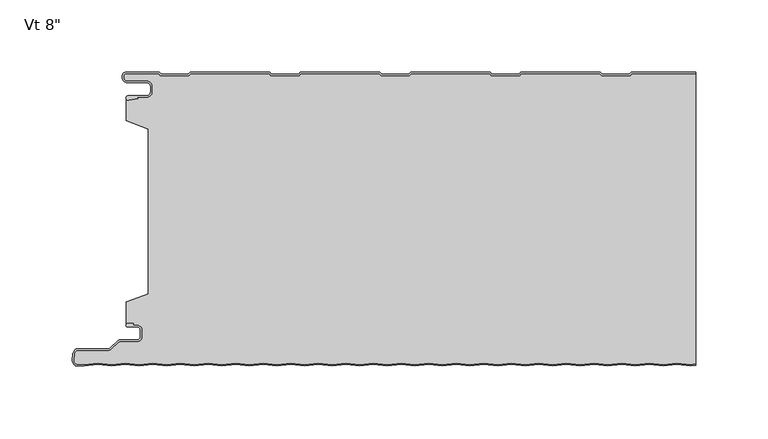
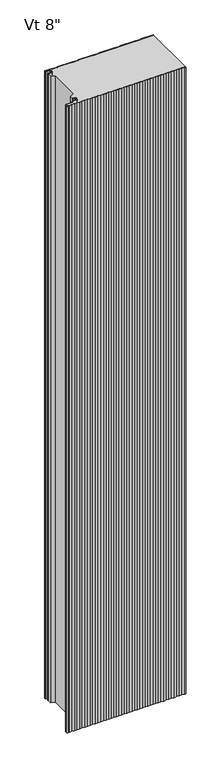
"""IFC4 building model written with IfcOpenShell, lengths in millimetres: plate geometry."""

from ifc_helpers import new_model, si_unit, point, frame, frame_2d, origin, origin_with_axes, place, context, project, spatial, polyline, circle_curve, trimmed, segment, composite_curve, outline, extrude, source, transform, mapped, element, save
from ifc_brep_helpers import plane_surface, cylinder_surface, revolved_surface, advanced_brep


def plate_b822c634(model_context):
    return source(origin(), model_context, "Body", "SolidModel", [
        extrude(outline(composite_curve([segment(polyline([(-196.9639401, -1.03e-05), (-173.8991777, -1.03e-05), (-172.6989573, -1.2002307), (-153.8919247, -1.2002307), (-152.6916939, 0.0), (-97.6993404, 0.0), (-96.4991097, -1.2002307), (-77.6920771, -1.2002307), (-76.4918463, 0.0), (-21.5159312, 0.0), (-20.3157004, -1.2002307), (-1.5086678, -1.2002307), (-0.3084371, 0.0), (54.667478, 0.0), (55.8677088, -1.2002307), (74.6747414, -1.2002307), (75.8749721, 0.0), (130.8673256, 0.0), (132.0675564, -1.2002307), (150.874589, -1.2002307), (152.0748197, 0.0), (196.6137654, 0.0), (196.6137654, -1.0), (152.4890333, -1.0), (151.2888025, -2.2002307), (131.6533428, -2.2002307), (130.4531121, -1.0), (76.2891857, -1.0), (75.0889549, -2.2002307), (55.4534952, -2.2002307), (54.2532645, -1.0), (0.1057765, -1.0), (-1.0944543, -2.2002307), (-20.729914, -2.2002307), (-21.9301447, -1.0), (-76.0776328, -1.0), (-77.2778635, -2.2002307), (-96.9133232, -2.2002307), (-98.113554, -1.0), (-152.2774804, -1.0), (-153.4777111, -2.2002307), (-173.1131708, -2.2002307), (-174.3133912, -1.0000103), (-196.9839768, -1.0000103)]), True, "CONTINUOUS"), segment(trimmed(circle_curve(frame_2d((-197.0487242, -2.3984828)), 1.3999705), [point((-196.9839768, -1.0000103))], [point((-198.4486947, -2.3984828))], True, "CARTESIAN"), True, "CONTINUOUS"), segment(polyline([(-198.4486947, -2.3984828), (-198.4486947, -3.9515996)]), True, "CONTINUOUS"), segment(trimmed(circle_curve(frame_2d((-196.2386394, -3.9515996)), 2.2100553), [point((-198.4486947, -3.9515996))], [point((-196.2386394, -6.1616549))], True, "CARTESIAN"), True, "CONTINUOUS"), segment(polyline([(-196.2386394, -6.1616549), (-182.7094114, -6.1616549)]), True, "CONTINUOUS"), segment(trimmed(circle_curve(frame_2d((-182.7094114, -9.881641)), 3.7199861), [point((-182.7094114, -6.1616549))], [point((-178.9894252, -9.881641))], False, "CARTESIAN"), True, "CONTINUOUS"), segment(polyline([(-178.9894252, -9.881641), (-178.9894252, -13.5282389)]), True, "CONTINUOUS"), segment(trimmed(circle_curve(frame_2d((-182.7094216, -13.5282389)), 3.7199964), [point((-178.9894252, -13.5282389))], [point((-182.7094216, -17.2482353))], False, "CARTESIAN"), True, "CONTINUOUS"), segment(polyline([(-182.7094216, -17.2482353), (-189.0545396, -17.2482353), (-188.8919338, -18.1704184), (-195.1454629, -19.2730843)]), True, "CONTINUOUS"), segment(trimmed(circle_curve(frame_2d((-195.4101029, -17.7722363)), 1.524001), [point((-195.1454629, -19.2730843))], [point((-195.4101029, -16.2482353))], False, "CARTESIAN"), True, "CONTINUOUS"), segment(polyline([(-195.4101029, -16.2482353), (-182.7094216, -16.2482353)]), True, "CONTINUOUS"), segment(trimmed(circle_curve(frame_2d((-182.7094216, -13.5282389)), 2.7199964), [point((-182.7094216, -16.2482353))], [point((-179.9894252, -13.5282389))], True, "CARTESIAN"), True, "CONTINUOUS"), segment(polyline([(-179.9894252, -13.5282389), (-179.9894252, -9.881641)]), True, "CONTINUOUS"), segment(trimmed(circle_curve(frame_2d((-182.7094114, -9.881641)), 2.7199861), [point((-179.9894252, -9.881641))], [point((-182.7094114, -7.1616549))], True, "CARTESIAN"), True, "CONTINUOUS"), segment(polyline([(-182.7094114, -7.1616549), (-196.2386394, -7.1616549)]), True, "CONTINUOUS"), segment(trimmed(circle_curve(frame_2d((-196.2386394, -3.9515996)), 3.2100553), [point((-196.2386394, -7.1616549))], [point((-199.4486948, -3.9515996))], False, "CARTESIAN"), True, "CONTINUOUS"), segment(polyline([(-199.4486948, -3.9515996), (-199.4486947, -2.3984828)]), True, "CONTINUOUS"), segment(trimmed(circle_curve(frame_2d((-197.0487242, -2.3984828)), 2.3999705), [point((-199.4486947, -2.3984828))], [point((-196.9639401, -1.03e-05))], False, "CARTESIAN"), True, "CONTINUOUS")], self_intersect=False)), origin_with_axes(), (0.0, 0.0, 1.0), 2400.0),
        extrude(outline(composite_curve([segment(polyline([(-195.7329864, -173.6783009), (-191.9745857, -173.6783009), (-191.9745857, -175.0767845), (-189.2754693, -175.0767845)]), True, "CONTINUOUS"), segment(trimmed(circle_curve(frame_2d((-189.2754693, -178.4267844)), 3.3499999), [point((-189.2754693, -175.0767845))], [point((-185.9254694, -178.4267844))], False, "CARTESIAN"), True, "CONTINUOUS"), segment(polyline([(-185.9254694, -178.4267844), (-185.9254694, -182.8267842)]), True, "CONTINUOUS"), segment(trimmed(circle_curve(frame_2d((-189.2754693, -182.8267842)), 3.3499999), [point((-185.9254694, -182.8267842))], [point((-189.2754693, -186.1767841))], False, "CARTESIAN"), True, "CONTINUOUS"), segment(polyline([(-189.2754693, -186.1767841), (-201.0863815, -186.1767841)]), True, "CONTINUOUS"), segment(trimmed(circle_curve(frame_2d((-201.0863815, -187.8767841)), 1.7), [point((-201.0863815, -186.1767841))], [point((-202.288463, -186.6747026))], True, "CARTESIAN"), True, "CONTINUOUS"), segment(polyline([(-202.288463, -186.6747026), (-207.029022, -191.4152615)]), True, "CONTINUOUS"), segment(trimmed(circle_curve(frame_2d((-208.8674996, -189.5767839)), 2.6), [point((-207.029022, -191.4152615))], [point((-208.8674996, -192.1767839))], False, "CARTESIAN"), True, "CONTINUOUS"), segment(polyline([(-208.8674996, -192.1767839), (-229.8742569, -192.1767839)]), True, "CONTINUOUS"), segment(trimmed(circle_curve(frame_2d((-229.8742569, -194.8767839)), 2.7), [point((-229.8742569, -192.1767839))], [point((-232.563964, -194.6412511))], True, "CARTESIAN"), True, "CONTINUOUS"), segment(polyline([(-232.563964, -194.6412511), (-232.9796492, -199.3882397)]), True, "CONTINUOUS"), segment(trimmed(circle_curve(frame_2d((-230.4287597, -199.6116164)), 2.5606512), [point((-232.9796492, -199.3882397))], [point((-230.4287597, -202.1722676))], True, "CARTESIAN"), True, "CONTINUOUS"), segment(polyline([(-230.4287597, -202.1722676), (-225.7790982, -202.1722676), (-216.4481844, -201.1350254), (-206.9232034, -202.1938405), (-197.3982225, -201.1350254), (-187.8732415, -202.1938405), (-178.3482606, -201.1350254), (-168.8232796, -202.1938405), (-159.2982987, -201.1350254), (-149.7733177, -202.1938405), (-140.2483368, -201.1350254), (-130.7233558, -202.1938405), (-121.1983749, -201.1350254), (-111.6733939, -202.1938405), (-102.148413, -201.1350254), (-92.623432, -202.1938405), (-83.0984511, -201.1350254), (-73.5734701, -202.1938405), (-64.0484892, -201.1350254), (-54.5235082, -202.1938405), (-44.9985273, -201.1350254), (-35.4735463, -202.1938405), (-25.9485654, -201.1350254), (-16.4235844, -202.1938405), (-6.8986035, -201.1350254), (2.6263775, -202.1938405), (12.1513584, -201.1350254), (21.6763394, -202.1938405), (31.2013203, -201.1350254), (40.7263013, -202.1938405), (50.2512822, -201.1350254), (59.7762632, -202.1938405), (69.3012441, -201.1350254), (78.8262251, -202.1938405), (88.351206, -201.1350254), (97.876187, -202.1938405), (107.4011679, -201.1350254), (116.9261489, -202.1938405), (126.4511298, -201.1350254), (135.9761108, -202.1938405), (145.5010917, -201.1350254), (155.0260727, -202.1938405), (164.5510536, -201.1350254), (174.0760346, -202.1938405), (183.6010155, -201.1350254), (193.1259965, -202.1938405), (196.6137654, -201.8061334), (196.6137654, -202.8122929), (193.1259965, -203.2), (183.6010155, -202.1411849), (174.0760346, -203.2), (164.5510536, -202.1411849), (155.0260727, -203.2), (145.5010917, -202.1411849), (135.9761108, -203.2), (126.4511298, -202.1411849), (116.9261489, -203.2), (107.4011679, -202.1411849), (97.876187, -203.2), (88.351206, -202.1411849), (78.8262251, -203.2), (69.3012441, -202.1411849), (59.7762632, -203.2), (50.2512822, -202.1411849), (40.7263013, -203.2), (31.2013203, -202.1411849), (21.6763394, -203.2), (12.1513584, -202.1411849), (2.6263775, -203.2), (-6.8986035, -202.1411849), (-16.4235844, -203.2), (-25.9485654, -202.1411849), (-35.4735463, -203.2), (-44.9985273, -202.1411849), (-54.5235082, -203.2), (-64.0484892, -202.1411849), (-73.5734701, -203.2), (-83.0984511, -202.1411849), (-92.623432, -203.2), (-102.148413, -202.1411849), (-111.6733939, -203.2), (-121.1983749, -202.1411849), (-130.7233558, -203.2), (-140.2483368, -202.1411849), (-149.7733177, -203.2), (-159.2982987, -202.1411849), (-168.8232796, -203.2), (-178.3482606, -202.1411849), (-187.8732415, -203.2), (-197.3982225, -202.1411849), (-206.9232034, -203.2), (-216.4481844, -202.1411849), (-225.7236879, -203.1722676), (-230.4287597, -203.1722676)]), True, "CONTINUOUS"), segment(trimmed(circle_curve(frame_2d((-230.4287597, -199.6116164)), 3.5606512), [point((-230.4287597, -203.1722676))], [point((-233.975837, -199.3010053))], False, "CARTESIAN"), True, "CONTINUOUS"), segment(polyline([(-233.975837, -199.3010053), (-233.5601518, -194.5540168)]), True, "CONTINUOUS"), segment(trimmed(circle_curve(frame_2d((-229.8742569, -194.8767839)), 3.7), [point((-233.5601518, -194.5540168))], [point((-229.8742569, -191.1767839))], False, "CARTESIAN"), True, "CONTINUOUS"), segment(polyline([(-229.8742569, -191.1767839), (-208.8674996, -191.1767839)]), True, "CONTINUOUS"), segment(trimmed(circle_curve(frame_2d((-208.8674996, -189.5767839)), 1.6), [point((-208.8674996, -191.1767839))], [point((-207.7361288, -190.7081547))], True, "CARTESIAN"), True, "CONTINUOUS"), segment(polyline([(-207.7361288, -190.7081547), (-202.9955698, -185.9675958)]), True, "CONTINUOUS"), segment(trimmed(circle_curve(frame_2d((-201.0863815, -187.8767841)), 2.7), [point((-202.9955698, -185.9675958))], [point((-201.0863815, -185.1767841))], False, "CARTESIAN"), True, "CONTINUOUS"), segment(polyline([(-201.0863815, -185.1767841), (-189.2754693, -185.1767841)]), True, "CONTINUOUS"), segment(trimmed(circle_curve(frame_2d((-189.2754693, -182.8267842)), 2.3499999), [point((-189.2754693, -185.1767841))], [point((-186.9254694, -182.8267842))], True, "CARTESIAN"), True, "CONTINUOUS"), segment(polyline([(-186.9254694, -182.8267842), (-186.9254694, -178.4267844)]), True, "CONTINUOUS"), segment(trimmed(circle_curve(frame_2d((-189.2754693, -178.4267844)), 2.3499999), [point((-186.9254694, -178.4267844))], [point((-189.2754693, -176.0767845))], True, "CARTESIAN"), True, "CONTINUOUS"), segment(polyline([(-189.2754693, -176.0767845), (-195.7947883, -176.0767845)]), True, "CONTINUOUS"), segment(trimmed(circle_curve(frame_2d((-195.734501, -174.8782999)), 1.2), [point((-195.7947883, -176.0767845))], [point((-195.7329864, -173.6783009))], False, "CARTESIAN"), True, "CONTINUOUS")], self_intersect=False)), origin_with_axes(), (0.0, 0.0, 1.0), 2400.0),
        advanced_brep(
        [(-189.2754693, -175.082944, 2400.0), (-185.9254694, -178.4329439, 2400.0), (-185.9254694, -182.8329437, 2400.0), (-189.2754693, -186.1829436, 2400.0), (-201.0863815, -186.1829436, 2400.0), (-202.288463, -186.6808621, 2400.0), (-207.029022, -191.421421, 2400.0), (-208.8674996, -192.1829434, 2400.0), (-229.8742569, -192.1829434, 2400.0), (-232.563964, -194.6474106, 2400.0), (-232.9796492, -199.3943992, 2400.0), (-230.4287597, -202.1784271, 2400.0), (-225.77874, -202.1784271, 2400.0), (-216.4478261, -201.1411849, 2400.0), (-206.9228452, -202.2, 2400.0), (-197.3978642, -201.1411849, 2400.0), (-187.8728833, -202.2, 2400.0), (-178.3479023, -201.1411849, 2400.0), (-168.8229214, -202.2, 2400.0), (-159.2979404, -201.1411849, 2400.0), (-149.7729595, -202.2, 2400.0), (-140.2479785, -201.1411849, 2400.0), (-130.7229976, -202.2, 2400.0), (-121.1980166, -201.1411849, 2400.0), (-111.6730357, -202.2, 2400.0), (-102.1480547, -201.1411849, 2400.0), (-92.6230738, -202.2, 2400.0), (-83.0980928, -201.1411849, 2400.0), (-73.5731119, -202.2, 2400.0), (-64.0481309, -201.1411849, 2400.0), (-54.52315, -202.2, 2400.0), (-44.998169, -201.1411849, 2400.0), (-35.4731881, -202.2, 2400.0), (-25.9482071, -201.1411849, 2400.0), (-16.4232262, -202.2, 2400.0), (-6.8982452, -201.1411849, 2400.0), (2.6267357, -202.2, 2400.0), (12.1517167, -201.1411849, 2400.0), (21.6766976, -202.2, 2400.0), (31.2016786, -201.1411849, 2400.0), (40.7266595, -202.2, 2400.0), (50.2516405, -201.1411849, 2400.0), (59.7766214, -202.2, 2400.0), (69.3016024, -201.1411849, 2400.0), (78.8265833, -202.2, 2400.0), (88.3515643, -201.1411849, 2400.0), (97.8765452, -202.2, 2400.0), (107.4015262, -201.1411849, 2400.0), (116.9265071, -202.2, 2400.0), (126.4514881, -201.1411849, 2400.0), (135.976469, -202.2, 2400.0), (145.50145, -201.1411849, 2400.0), (155.0264309, -202.2, 2400.0), (164.5514119, -201.1411849, 2400.0), (174.0763928, -202.2, 2400.0), (183.6013738, -201.1411849, 2400.0), (193.1263547, -202.2, 2400.0), (196.6137654, -201.8123328, 2400.0), (196.6137654, -1.0, 2400.0), (152.4890333, -1.0, 2400.0), (151.2888025, -2.2002307, 2400.0), (131.6533428, -2.2002307, 2400.0), (130.4531121, -1.0, 2400.0), (76.2891857, -1.0, 2400.0), (75.0889549, -2.2002307, 2400.0), (55.4534952, -2.2002307, 2400.0), (54.2532645, -1.0, 2400.0), (0.1057765, -1.0, 2400.0), (-1.0944543, -2.2002307, 2400.0), (-20.729914, -2.2002307, 2400.0), (-21.9301447, -1.0, 2400.0), (-76.0776328, -1.0, 2400.0), (-77.2778635, -2.2002307, 2400.0), (-96.9133232, -2.2002307, 2400.0), (-98.113554, -1.0, 2400.0), (-152.2774804, -1.0, 2400.0), (-153.4777111, -2.2002307, 2400.0), (-173.1131708, -2.2002307, 2400.0), (-174.3133912, -1.0000103, 2400.0), (-196.9839768, -1.0000103, 2400.0), (-198.4486947, -2.3984828, 2400.0), (-198.4486947, -3.9515996, 2400.0), (-196.2386394, -6.1616549, 2400.0), (-182.7094114, -6.1616549, 2400.0), (-178.9894252, -9.881641, 2400.0), (-178.9894252, -13.5282389, 2400.0), (-182.7094216, -17.2482353, 2400.0), (-189.0545396, -17.2482353, 2400.0), (-188.8919338, -18.1704184, 2400.0), (-195.1454629, -19.2730843, 2400.0), (-196.5999998, -18.7244571, 2400.0), (-196.5999998, -33.5050578, 2400.0), (-181.6020466, -39.1301019, 2400.0), (-181.588281, -153.3686066, 2400.0), (-196.5999998, -158.9712613, 2400.0), (-196.5999998, -174.0532484, 2400.0), (-195.7329864, -173.6844604, 2400.0), (-191.9745857, -173.6844604, 2400.0), (-191.9745857, -175.082944, 2400.0), (-189.2754693, -175.082944, 0.0), (-191.9745857, -175.082944, 0.0), (-191.9745857, -173.6844604, 0.0), (-195.7329864, -173.6844604, 0.0), (-196.5999998, -174.0532484, 0.0), (-196.5999998, -158.9712613, 0.0), (-181.6020466, -153.3470337, 0.0), (-181.588281, -39.1301019, 0.0), (-196.5999998, -33.5050578, 0.0), (-196.5999998, -18.7244571, 0.0), (-195.1454629, -19.2730843, 0.0), (-188.8919338, -18.1704184, 0.0), (-189.0545396, -17.2482353, 0.0), (-182.7094216, -17.2482353, 0.0), (-178.9894252, -13.5282389, 0.0), (-178.9894252, -9.881641, 0.0), (-182.7094114, -6.1616549, 0.0), (-196.2386394, -6.1616549, 0.0), (-198.4486948, -3.9515996, 0.0), (-198.4486947, -2.3984828, 0.0), (-196.9839768, -1.0000103, 0.0), (-174.3133912, -1.0000103, 0.0), (-173.1131708, -2.2002307, 0.0), (-153.4777111, -2.2002307, 0.0), (-152.2774804, -1.0, 0.0), (-98.113554, -1.0, 0.0), (-96.9133232, -2.2002307, 0.0), (-77.2778635, -2.2002307, 0.0), (-76.0776328, -1.0, 0.0), (-21.9301447, -1.0, 0.0), (-20.729914, -2.2002307, 0.0), (-1.0944543, -2.2002307, 0.0), (0.1057765, -1.0, 0.0), (54.2532645, -1.0, 0.0), (55.4534952, -2.2002307, 0.0), (75.0889549, -2.2002307, 0.0), (76.2891857, -1.0, 0.0), (130.4531121, -1.0, 0.0), (131.6533428, -2.2002307, 0.0), (151.2888025, -2.2002307, 0.0), (152.4890333, -1.0, 0.0), (196.6137654, -1.0, 0.0), (196.6137654, -201.8123328, 0.0), (193.1263547, -202.2, 0.0), (183.6013738, -201.1411849, 0.0), (174.0763928, -202.2, 0.0), (164.5514119, -201.1411849, 0.0), (155.0264309, -202.2, 0.0), (145.50145, -201.1411849, 0.0), (135.976469, -202.2, 0.0), (126.4514881, -201.1411849, 0.0), (116.9265071, -202.2, 0.0), (107.4015262, -201.1411849, 0.0), (97.8765452, -202.2, 0.0), (88.3515643, -201.1411849, 0.0), (78.8265833, -202.2, 0.0), (69.3016024, -201.1411849, 0.0), (59.7766214, -202.2, 0.0), (50.2516405, -201.1411849, 0.0), (40.7266595, -202.2, 0.0), (31.2016786, -201.1411849, 0.0), (21.6766976, -202.2, 0.0), (12.1517167, -201.1411849, 0.0), (2.6267357, -202.2, 0.0), (-6.8982452, -201.1411849, 0.0), (-16.4232262, -202.2, 0.0), (-25.9482071, -201.1411849, 0.0), (-35.4731881, -202.2, 0.0), (-44.998169, -201.1411849, 0.0), (-54.52315, -202.2, 0.0), (-64.0481309, -201.1411849, 0.0), (-73.5731119, -202.2, 0.0), (-83.0980928, -201.1411849, 0.0), (-92.6230738, -202.2, 0.0), (-102.1480547, -201.1411849, 0.0), (-111.6730357, -202.2, 0.0), (-121.1980166, -201.1411849, 0.0), (-130.7229976, -202.2, 0.0), (-140.2479785, -201.1411849, 0.0), (-149.7729595, -202.2, 0.0), (-159.2979404, -201.1411849, 0.0), (-168.8229214, -202.2, 0.0), (-178.3479023, -201.1411849, 0.0), (-187.8728833, -202.2, 0.0), (-197.3978642, -201.1411849, 0.0), (-206.9228452, -202.2, 0.0), (-216.4478261, -201.1411849, 0.0), (-225.77874, -202.1784271, 0.0), (-230.4287597, -202.1784271, 0.0), (-232.9796492, -199.3943992, 0.0), (-232.563964, -194.6474106, 0.0), (-229.8742569, -192.1829434, 0.0), (-208.8674996, -192.1829434, 0.0), (-207.029022, -191.421421, 0.0), (-202.288463, -186.6808621, 0.0), (-201.0863815, -186.1829436, 0.0), (-189.2754693, -186.1829436, 0.0), (-185.9254694, -182.8329437, 0.0), (-185.9254694, -178.4329439, 0.0)],
        [
            (0, 1, circle_curve(frame((-189.2754693, -178.4329439, 2400.0), z_axis=(0.0, 0.0, -1.0), x_axis=(-1.0, 0.0, 0.0)), 3.3499999)),
            (1, 2),
            (2, 3, circle_curve(frame((-189.2754693, -182.8329437, 2400.0), z_axis=(0.0, 0.0, -1.0), x_axis=(-1.0, 0.0, 0.0)), 3.3499999)),
            (3, 4),
            (4, 5, circle_curve(frame((-201.0863815, -187.8829436, 2400.0), z_axis=(0.0, 0.0, 1.0), x_axis=(-1.0, 0.0, 0.0)), 1.7)),
            (5, 6),
            (6, 7, circle_curve(frame((-208.8674996, -189.5829434, 2400.0), z_axis=(0.0, 0.0, -1.0), x_axis=(-1.0, 0.0, 0.0)), 2.6)),
            (7, 8),
            (8, 9, circle_curve(frame((-229.8742569, -194.8829434, 2400.0), z_axis=(0.0, 0.0, 1.0), x_axis=(-1.0, 0.0, 0.0)), 2.7)),
            (9, 10),
            (10, 11, circle_curve(frame((-230.4287597, -199.617776, 2400.0), z_axis=(0.0, 0.0, 1.0), x_axis=(-1.0, 0.0, 0.0)), 2.5606512)),
            (11, 12),
            (12, 13),
            (13, 14),
            (14, 15),
            (15, 16),
            (16, 17),
            (17, 18),
            (18, 19),
            (19, 20),
            (20, 21),
            (21, 22),
            (22, 23),
            (23, 24),
            (24, 25),
            (25, 26),
            (26, 27),
            (27, 28),
            (28, 29),
            (29, 30),
            (30, 31),
            (31, 32),
            (32, 33),
            (33, 34),
            (34, 35),
            (35, 36),
            (36, 37),
            (37, 38),
            (38, 39),
            (39, 40),
            (40, 41),
            (41, 42),
            (42, 43),
            (43, 44),
            (44, 45),
            (45, 46),
            (46, 47),
            (47, 48),
            (48, 49),
            (49, 50),
            (50, 51),
            (51, 52),
            (52, 53),
            (53, 54),
            (54, 55),
            (55, 56),
            (56, 57),
            (57, 58),
            (58, 59),
            (59, 60),
            (60, 61),
            (61, 62),
            (62, 63),
            (63, 64),
            (64, 65),
            (65, 66),
            (66, 67),
            (67, 68),
            (68, 69),
            (69, 70),
            (70, 71),
            (71, 72),
            (72, 73),
            (73, 74),
            (74, 75),
            (75, 76),
            (76, 77),
            (77, 78),
            (78, 79),
            (79, 80, circle_curve(frame((-197.0487242, -2.3984828, 2400.0), z_axis=(0.0, 0.0, 1.0), x_axis=(-1.0, 0.0, 0.0)), 1.3999705)),
            (80, 81),
            (81, 82, circle_curve(frame((-196.2386394, -3.9515996, 2400.0), z_axis=(0.0, 0.0, 1.0), x_axis=(-1.0, 0.0, 0.0)), 2.2100553)),
            (82, 83),
            (83, 84, circle_curve(frame((-182.7094114, -9.881641, 2400.0), z_axis=(0.0, 0.0, -1.0), x_axis=(-1.0, 0.0, 0.0)), 3.7199861)),
            (84, 85),
            (85, 86, circle_curve(frame((-182.7094216, -13.5282389, 2400.0), z_axis=(0.0, 0.0, -1.0), x_axis=(-1.0, 0.0, 0.0)), 3.7199964)),
            (86, 87),
            (87, 88),
            (88, 89),
            (89, 90, circle_curve(frame((-195.4101029, -17.7722363, 2400.0), z_axis=(0.0, 0.0, -1.0), x_axis=(-1.0, 0.0, 0.0)), 1.524001)),
            (90, 91),
            (91, 92),
            (92, 93),
            (93, 94),
            (94, 95),
            (95, 96, circle_curve(frame((-195.734501, -174.8844594, 2400.0), z_axis=(0.0, 0.0, -1.0), x_axis=(-1.0, 0.0, 0.0)), 1.2)),
            (96, 97),
            (97, 98),
            (98, 0),
            (99, 100),
            (100, 101),
            (101, 102),
            (102, 103, circle_curve(frame((-195.734501, -174.8844594, 0.0), z_axis=(0.0, 0.0, 1.0), x_axis=(-1.0, 0.0, 0.0)), 1.2)),
            (103, 104),
            (104, 105),
            (105, 106),
            (106, 107),
            (107, 108),
            (108, 109, circle_curve(frame((-195.4101029, -17.7722363, 0.0), z_axis=(0.0, 0.0, 1.0), x_axis=(-1.0, 0.0, 0.0)), 1.524001)),
            (109, 110),
            (110, 111),
            (111, 112),
            (112, 113, circle_curve(frame((-182.7094216, -13.5282389, 0.0), z_axis=(0.0, 0.0, 1.0), x_axis=(-1.0, 0.0, 0.0)), 3.7199964)),
            (113, 114),
            (114, 115, circle_curve(frame((-182.7094114, -9.881641, 0.0), z_axis=(0.0, 0.0, 1.0), x_axis=(-1.0, 0.0, 0.0)), 3.7199861)),
            (115, 116),
            (116, 117, circle_curve(frame((-196.2386394, -3.9515996, 0.0), z_axis=(0.0, 0.0, -1.0), x_axis=(-1.0, 0.0, 0.0)), 2.2100553)),
            (117, 118),
            (118, 119, circle_curve(frame((-197.0487242, -2.3984828, 0.0), z_axis=(0.0, 0.0, -1.0), x_axis=(-1.0, 0.0, 0.0)), 1.3999705)),
            (119, 120),
            (120, 121),
            (121, 122),
            (122, 123),
            (123, 124),
            (124, 125),
            (125, 126),
            (126, 127),
            (127, 128),
            (128, 129),
            (129, 130),
            (130, 131),
            (131, 132),
            (132, 133),
            (133, 134),
            (134, 135),
            (135, 136),
            (136, 137),
            (137, 138),
            (138, 139),
            (139, 140),
            (140, 141),
            (141, 142),
            (142, 143),
            (143, 144),
            (144, 145),
            (145, 146),
            (146, 147),
            (147, 148),
            (148, 149),
            (149, 150),
            (150, 151),
            (151, 152),
            (152, 153),
            (153, 154),
            (154, 155),
            (155, 156),
            (156, 157),
            (157, 158),
            (158, 159),
            (159, 160),
            (160, 161),
            (161, 162),
            (162, 163),
            (163, 164),
            (164, 165),
            (165, 166),
            (166, 167),
            (167, 168),
            (168, 169),
            (169, 170),
            (170, 171),
            (171, 172),
            (172, 173),
            (173, 174),
            (174, 175),
            (175, 176),
            (176, 177),
            (177, 178),
            (178, 179),
            (179, 180),
            (180, 181),
            (181, 182),
            (182, 183),
            (183, 184),
            (184, 185),
            (185, 186),
            (186, 187),
            (187, 188, circle_curve(frame((-230.4287597, -199.617776, 0.0), z_axis=(0.0, 0.0, -1.0), x_axis=(-1.0, 0.0, 0.0)), 2.5606512)),
            (188, 189),
            (189, 190, circle_curve(frame((-229.8742569, -194.8829434, 0.0), z_axis=(0.0, 0.0, -1.0), x_axis=(-1.0, 0.0, 0.0)), 2.7)),
            (190, 191),
            (191, 192, circle_curve(frame((-208.8674996, -189.5829434, 0.0), z_axis=(0.0, 0.0, 1.0), x_axis=(-1.0, 0.0, 0.0)), 2.6)),
            (192, 193),
            (193, 194, circle_curve(frame((-201.0863815, -187.8829436, 0.0), z_axis=(0.0, 0.0, -1.0), x_axis=(-1.0, 0.0, 0.0)), 1.7)),
            (194, 195),
            (195, 196, circle_curve(frame((-189.2754693, -182.8329437, 0.0), z_axis=(0.0, 0.0, 1.0), x_axis=(-1.0, 0.0, 0.0)), 3.3499999)),
            (196, 197),
            (197, 99, circle_curve(frame((-189.2754693, -178.4329439, 0.0), z_axis=(0.0, 0.0, 1.0), x_axis=(-1.0, 0.0, 0.0)), 3.3499999)),
            (83, 115),
            (114, 84),
            (82, 116),
            (81, 117),
            (80, 118),
            (79, 119),
            (78, 120),
            (77, 121),
            (76, 122),
            (75, 123),
            (74, 124),
            (73, 125),
            (72, 126),
            (71, 127),
            (70, 128),
            (69, 129),
            (68, 130),
            (67, 131),
            (66, 132),
            (65, 133),
            (64, 134),
            (63, 135),
            (62, 136),
            (61, 137),
            (60, 138),
            (59, 139),
            (58, 140),
            (91, 107),
            (106, 92),
            (90, 108),
            (89, 109),
            (88, 110),
            (87, 111),
            (86, 112),
            (85, 113),
            (105, 93),
            (10, 188),
            (187, 11),
            (9, 189),
            (8, 190),
            (6, 192),
            (191, 7),
            (5, 193),
            (4, 194),
            (3, 195),
            (2, 196),
            (1, 197),
            (94, 104),
            (103, 95),
            (141, 57),
            (56, 142),
            (55, 143),
            (54, 144),
            (53, 145),
            (52, 146),
            (51, 147),
            (50, 148),
            (49, 149),
            (48, 150),
            (47, 151),
            (46, 152),
            (45, 153),
            (44, 154),
            (43, 155),
            (42, 156),
            (41, 157),
            (40, 158),
            (39, 159),
            (38, 160),
            (37, 161),
            (36, 162),
            (35, 163),
            (34, 164),
            (33, 165),
            (32, 166),
            (31, 167),
            (30, 168),
            (29, 169),
            (28, 170),
            (27, 171),
            (26, 172),
            (25, 173),
            (24, 174),
            (23, 175),
            (22, 176),
            (21, 177),
            (20, 178),
            (19, 179),
            (18, 180),
            (17, 181),
            (16, 182),
            (15, 183),
            (14, 184),
            (13, 185),
            (12, 186),
            (102, 96),
            (101, 97),
            (100, 98),
            (0, 99),
        ],
        [
            plane_surface(frame((336.2637657, -202.2, 2400.0), z_axis=(0.0, 0.0, 1.0), x_axis=(0.0, -1.0, 0.0))),
            plane_surface(frame((336.2637657, -202.2, 0.0), z_axis=(0.0, 0.0, -1.0), x_axis=(0.0, -1.0, 0.0))),
            revolved_surface(polyline([(-186.4293975, -9.881641, 0.0), (-186.4293975, -9.881641, 2400.0)]), (-182.7094114, -9.881641, 2400.0), (0.0, 0.0, -1.0)),
            plane_surface(frame((-182.7094114, -6.1616549, 2400.0), z_axis=(0.0, -1.0, 0.0), x_axis=(0.0, 0.0, -1.0))),
            cylinder_surface(frame((-196.2386394, -3.9515996, 2400.0), z_axis=(0.0, 0.0, 1.0), x_axis=(-1.0, 0.0, 0.0)), 2.2100553),
            plane_surface(frame((-198.4486947, -3.9515996, 2400.0), z_axis=(-1.0, 0.0, 0.0), x_axis=(0.0, 0.0, -1.0))),
            cylinder_surface(frame((-197.0487242, -2.3984828, 2400.0), z_axis=(0.0, 0.0, 1.0), x_axis=(-1.0, 0.0, 0.0)), 1.3999705),
            plane_surface(frame((-196.9839768, -1.0000103, 2400.0), z_axis=(0.0, 1.0, 0.0), x_axis=(0.0, 0.0, -1.0))),
            plane_surface(frame((-174.3133912, -1.0000103, 2400.0), z_axis=(0.7071067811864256, 0.7071067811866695, 0.0), x_axis=(0.0, 0.0, -1.0))),
            plane_surface(frame((-163.295441, -2.2002307, 2400.0), z_axis=(0.0, 1.0, 0.0), x_axis=(0.0, 0.0, -1.0))),
            plane_surface(frame((-153.4777111, -2.2002307, 2400.0), z_axis=(-0.7071067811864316, 0.7071067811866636, 0.0), x_axis=(0.0, 0.0, -1.0))),
            plane_surface(frame((-152.2774804, -1.0, 2400.0), z_axis=(0.0, 1.0, 0.0), x_axis=(0.0, 0.0, -1.0))),
            plane_surface(frame((-98.113554, -1.0, 2400.0), z_axis=(0.7071067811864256, 0.7071067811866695, 0.0), x_axis=(0.0, 0.0, -1.0))),
            plane_surface(frame((-87.0955934, -2.2002307, 2400.0), z_axis=(0.0, 1.0, 0.0), x_axis=(0.0, 0.0, -1.0))),
            plane_surface(frame((-77.2778635, -2.2002307, 2400.0), z_axis=(-0.7071067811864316, 0.7071067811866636, 0.0), x_axis=(0.0, 0.0, -1.0))),
            plane_surface(frame((-76.0776328, -1.0, 2400.0), z_axis=(0.0, 1.0, 0.0), x_axis=(0.0, 0.0, -1.0))),
            plane_surface(frame((-21.9301447, -1.0, 2400.0), z_axis=(0.7071067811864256, 0.7071067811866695, 0.0), x_axis=(0.0, 0.0, -1.0))),
            plane_surface(frame((-10.9121841, -2.2002307, 2400.0), z_axis=(0.0, 1.0, 0.0), x_axis=(0.0, 0.0, -1.0))),
            plane_surface(frame((-1.0944543, -2.2002307, 2400.0), z_axis=(-0.7071067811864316, 0.7071067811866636, 0.0), x_axis=(0.0, 0.0, -1.0))),
            plane_surface(frame((0.1057765, -1.0, 2400.0), z_axis=(0.0, 1.0, 0.0), x_axis=(0.0, 0.0, -1.0))),
            plane_surface(frame((54.2532645, -1.0, 2400.0), z_axis=(0.7071067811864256, 0.7071067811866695, 0.0), x_axis=(0.0, 0.0, -1.0))),
            plane_surface(frame((65.2712251, -2.2002307, 2400.0), z_axis=(0.0, 1.0, 0.0), x_axis=(0.0, 0.0, -1.0))),
            plane_surface(frame((75.0889549, -2.2002307, 2400.0), z_axis=(-0.7071067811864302, 0.7071067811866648, 0.0), x_axis=(0.0, 0.0, -1.0))),
            plane_surface(frame((76.2891857, -1.0, 2400.0), z_axis=(0.0, 1.0, 0.0), x_axis=(0.0, 0.0, -1.0))),
            plane_surface(frame((130.4531121, -1.0, 2400.0), z_axis=(0.7071067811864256, 0.7071067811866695, 0.0), x_axis=(0.0, 0.0, -1.0))),
            plane_surface(frame((141.4710727, -2.2002307, 2400.0), z_axis=(0.0, 1.0, 0.0), x_axis=(0.0, 0.0, -1.0))),
            plane_surface(frame((151.2888025, -2.2002307, 2400.0), z_axis=(-0.7071067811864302, 0.7071067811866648, 0.0), x_axis=(0.0, 0.0, -1.0))),
            plane_surface(frame((152.4890333, -1.0, 2400.0), z_axis=(0.0, 1.0, 0.0), x_axis=(0.0, 0.0, -1.0))),
            plane_surface(frame((-181.6020466, -39.1301019, 2400.0), z_axis=(-0.35116785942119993, -0.9363125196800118, 0.0), x_axis=(0.0, 0.0, -1.0))),
            plane_surface(frame((-196.5999998, -33.5050578, 2400.0), z_axis=(-1.0, 0.0, 0.0), x_axis=(0.0, 0.0, -1.0))),
            revolved_surface(polyline([(-196.9341039, -17.7722363, 0.0), (-196.9341039, -17.7722363, 2400.0)]), (-195.4101029, -17.7722363, 2400.0), (0.0, 0.0, -1.0)),
            plane_surface(frame((-195.1454629, -19.2730843, 2400.0), z_axis=(-0.17364817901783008, 0.9848077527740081, 0.0), x_axis=(0.0, 0.0, -1.0))),
            plane_surface(frame((-188.8919338, -18.1704184, 2400.0), z_axis=(-0.9848077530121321, -0.17364817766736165, 0.0), x_axis=(0.0, 0.0, -1.0))),
            plane_surface(frame((-189.0545396, -17.2482353, 2400.0), z_axis=(0.0, 1.0, 0.0), x_axis=(0.0, 0.0, -1.0))),
            revolved_surface(polyline([(-186.42941800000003, -13.5282389, 0.0), (-186.42941800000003, -13.5282389, 2400.0)]), (-182.7094216, -13.5282389, 2400.0), (0.0, 0.0, -1.0)),
            plane_surface(frame((-178.9894252, -13.5282389, 2400.0), z_axis=(-1.0, 0.0, 0.0), x_axis=(0.0, 0.0, -1.0))),
            plane_surface(frame((-181.588281, -153.3686066, 2400.0), z_axis=(-1.0, 0.0, 0.0), x_axis=(0.0, 0.0, -1.0))),
            cylinder_surface(frame((-230.4287597, -199.617776, 2400.0), z_axis=(0.0, 0.0, 1.0), x_axis=(-1.0, 0.0, 0.0)), 2.5606512),
            plane_surface(frame((-232.9796492, -199.3943992, 2400.0), z_axis=(-0.9961878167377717, 0.08723436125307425, 0.0), x_axis=(0.0, 0.0, -1.0))),
            cylinder_surface(frame((-229.8742569, -194.8829434, 2400.0), z_axis=(0.0, 0.0, 1.0), x_axis=(-1.0, 0.0, 0.0)), 2.7),
            revolved_surface(polyline([(-211.4674996, -189.5829434, 0.0), (-211.4674996, -189.5829434, 2400.0)]), (-208.8674996, -189.5829434, 2400.0), (0.0, 0.0, -1.0)),
            plane_surface(frame((-207.029022, -191.421421, 2400.0), z_axis=(-0.7071067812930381, 0.7071067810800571, 0.0), x_axis=(0.0, 0.0, -1.0))),
            cylinder_surface(frame((-201.0863815, -187.8829436, 2400.0), z_axis=(0.0, 0.0, 1.0), x_axis=(-1.0, 0.0, 0.0)), 1.7),
            plane_surface(frame((-201.0863815, -186.1829436, 2400.0), z_axis=(0.0, 1.0, 0.0), x_axis=(0.0, 0.0, -1.0))),
            revolved_surface(polyline([(-192.6254692, -182.8329437, 0.0), (-192.6254692, -182.8329437, 2400.0)]), (-189.2754693, -182.8329437, 2400.0), (0.0, 0.0, -1.0)),
            plane_surface(frame((-185.9254694, -182.8329437, 2400.0), z_axis=(-1.0, 0.0, 0.0), x_axis=(0.0, 0.0, -1.0))),
            plane_surface(frame((-196.5999998, -174.0532484, 2400.0), z_axis=(-1.0, 0.0, 0.0), x_axis=(0.0, 0.0, -1.0))),
            plane_surface(frame((-196.5999998, -158.9712613, 2400.0), z_axis=(-0.3511231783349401, 0.9363292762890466, 0.0), x_axis=(0.0, 0.0, -1.0))),
            plane_surface(frame((202.6513357, -201.1411849, 2400.0), z_axis=(0.11048140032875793, -0.9938781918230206, 0.0), x_axis=(0.0, 0.0, -1.0))),
            plane_surface(frame((193.1263547, -202.2, 2400.0), z_axis=(-0.11048140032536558, -0.9938781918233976, 0.0), x_axis=(0.0, 0.0, -1.0))),
            plane_surface(frame((183.6013738, -201.1411849, 2400.0), z_axis=(0.11048140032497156, -0.9938781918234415, 0.0), x_axis=(0.0, 0.0, -1.0))),
            plane_surface(frame((174.0763928, -202.2, 2400.0), z_axis=(-0.11048140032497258, -0.9938781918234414, 0.0), x_axis=(0.0, 0.0, -1.0))),
            plane_surface(frame((164.5514119, -201.1411849, 2400.0), z_axis=(0.11048140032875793, -0.9938781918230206, 0.0), x_axis=(0.0, 0.0, -1.0))),
            plane_surface(frame((155.0264309, -202.2, 2400.0), z_axis=(-0.11048140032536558, -0.9938781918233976, 0.0), x_axis=(0.0, 0.0, -1.0))),
            plane_surface(frame((145.50145, -201.1411849, 2400.0), z_axis=(0.11048140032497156, -0.9938781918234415, 0.0), x_axis=(0.0, 0.0, -1.0))),
            plane_surface(frame((135.976469, -202.2, 2400.0), z_axis=(-0.11048140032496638, -0.9938781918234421, 0.0), x_axis=(0.0, 0.0, -1.0))),
            plane_surface(frame((126.4514881, -201.1411849, 2400.0), z_axis=(0.11048140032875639, -0.9938781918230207, 0.0), x_axis=(0.0, 0.0, -1.0))),
            plane_surface(frame((116.9265071, -202.2, 2400.0), z_axis=(-0.11048140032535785, -0.9938781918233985, 0.0), x_axis=(0.0, 0.0, -1.0))),
            plane_surface(frame((107.4015262, -201.1411849, 2400.0), z_axis=(0.11048140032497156, -0.9938781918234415, 0.0), x_axis=(0.0, 0.0, -1.0))),
            plane_surface(frame((97.8765452, -202.2, 2400.0), z_axis=(-0.11048140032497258, -0.9938781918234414, 0.0), x_axis=(0.0, 0.0, -1.0))),
            plane_surface(frame((88.3515643, -201.1411849, 2400.0), z_axis=(0.11048140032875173, -0.9938781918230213, 0.0), x_axis=(0.0, 0.0, -1.0))),
            plane_surface(frame((78.8265833, -202.2, 2400.0), z_axis=(-0.11048140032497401, -0.9938781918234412, 0.0), x_axis=(0.0, 0.0, -1.0))),
            plane_surface(frame((69.3016024, -201.1411849, 2400.0), z_axis=(0.11048140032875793, -0.9938781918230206, 0.0), x_axis=(0.0, 0.0, -1.0))),
            plane_surface(frame((59.7766214, -202.2, 2400.0), z_axis=(-0.11048140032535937, -0.9938781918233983, 0.0), x_axis=(0.0, 0.0, -1.0))),
            plane_surface(frame((50.2516405, -201.1411849, 2400.0), z_axis=(0.1104814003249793, -0.9938781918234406, 0.0), x_axis=(0.0, 0.0, -1.0))),
            plane_surface(frame((40.7266595, -202.2, 2400.0), z_axis=(-0.11048140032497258, -0.9938781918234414, 0.0), x_axis=(0.0, 0.0, -1.0))),
            plane_surface(frame((31.2016786, -201.1411849, 2400.0), z_axis=(0.11048140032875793, -0.9938781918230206, 0.0), x_axis=(0.0, 0.0, -1.0))),
            plane_surface(frame((21.6766976, -202.2, 2400.0), z_axis=(-0.11048140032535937, -0.9938781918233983, 0.0), x_axis=(0.0, 0.0, -1.0))),
            plane_surface(frame((12.1517167, -201.1411849, 2400.0), z_axis=(0.1104814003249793, -0.9938781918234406, 0.0), x_axis=(0.0, 0.0, -1.0))),
            plane_surface(frame((2.6267357, -202.2, 2400.0), z_axis=(-0.11048140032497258, -0.9938781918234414, 0.0), x_axis=(0.0, 0.0, -1.0))),
            plane_surface(frame((-6.8982452, -201.1411849, 2400.0), z_axis=(0.11048140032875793, -0.9938781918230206, 0.0), x_axis=(0.0, 0.0, -1.0))),
            plane_surface(frame((-16.4232262, -202.2, 2400.0), z_axis=(-0.11048140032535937, -0.9938781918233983, 0.0), x_axis=(0.0, 0.0, -1.0))),
            plane_surface(frame((-25.9482071, -201.1411849, 2400.0), z_axis=(0.1104814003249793, -0.9938781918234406, 0.0), x_axis=(0.0, 0.0, -1.0))),
            plane_surface(frame((-35.4731881, -202.2, 2400.0), z_axis=(-0.11048140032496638, -0.9938781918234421, 0.0), x_axis=(0.0, 0.0, -1.0))),
            plane_surface(frame((-44.998169, -201.1411849, 2400.0), z_axis=(0.11048140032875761, -0.9938781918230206, 0.0), x_axis=(0.0, 0.0, -1.0))),
            plane_surface(frame((-54.52315, -202.2, 2400.0), z_axis=(-0.11048140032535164, -0.9938781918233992, 0.0), x_axis=(0.0, 0.0, -1.0))),
            plane_surface(frame((-64.0481309, -201.1411849, 2400.0), z_axis=(0.1104814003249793, -0.9938781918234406, 0.0), x_axis=(0.0, 0.0, -1.0))),
            plane_surface(frame((-73.5731119, -202.2, 2400.0), z_axis=(-0.11048140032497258, -0.9938781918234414, 0.0), x_axis=(0.0, 0.0, -1.0))),
            plane_surface(frame((-83.0980928, -201.1411849, 2400.0), z_axis=(0.11048140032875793, -0.9938781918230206, 0.0), x_axis=(0.0, 0.0, -1.0))),
            plane_surface(frame((-92.6230738, -202.2, 2400.0), z_axis=(-0.11048140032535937, -0.9938781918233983, 0.0), x_axis=(0.0, 0.0, -1.0))),
            plane_surface(frame((-102.1480547, -201.1411849, 2400.0), z_axis=(0.1104814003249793, -0.9938781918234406, 0.0), x_axis=(0.0, 0.0, -1.0))),
            plane_surface(frame((-111.6730357, -202.2, 2400.0), z_axis=(-0.11048140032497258, -0.9938781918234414, 0.0), x_axis=(0.0, 0.0, -1.0))),
            plane_surface(frame((-121.1980166, -201.1411849, 2400.0), z_axis=(0.11048140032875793, -0.9938781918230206, 0.0), x_axis=(0.0, 0.0, -1.0))),
            plane_surface(frame((-130.7229976, -202.2, 2400.0), z_axis=(-0.11048140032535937, -0.9938781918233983, 0.0), x_axis=(0.0, 0.0, -1.0))),
            plane_surface(frame((-140.2479785, -201.1411849, 2400.0), z_axis=(0.1104814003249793, -0.9938781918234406, 0.0), x_axis=(0.0, 0.0, -1.0))),
            plane_surface(frame((-149.7729595, -202.2, 2400.0), z_axis=(-0.11048140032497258, -0.9938781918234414, 0.0), x_axis=(0.0, 0.0, -1.0))),
            plane_surface(frame((-159.2979404, -201.1411849, 2400.0), z_axis=(0.11048140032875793, -0.9938781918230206, 0.0), x_axis=(0.0, 0.0, -1.0))),
            plane_surface(frame((-168.8229214, -202.2, 2400.0), z_axis=(-0.11048140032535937, -0.9938781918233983, 0.0), x_axis=(0.0, 0.0, -1.0))),
            plane_surface(frame((-178.3479023, -201.1411849, 2400.0), z_axis=(0.1104814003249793, -0.9938781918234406, 0.0), x_axis=(0.0, 0.0, -1.0))),
            plane_surface(frame((-187.8728833, -202.2, 2400.0), z_axis=(-0.11048140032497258, -0.9938781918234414, 0.0), x_axis=(0.0, 0.0, -1.0))),
            plane_surface(frame((-197.3978642, -201.1411849, 2400.0), z_axis=(0.11048140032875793, -0.9938781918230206, 0.0), x_axis=(0.0, 0.0, -1.0))),
            plane_surface(frame((-206.9228452, -202.2, 2400.0), z_axis=(-0.11048140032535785, -0.9938781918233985, 0.0), x_axis=(0.0, 0.0, -1.0))),
            plane_surface(frame((-216.4478261, -201.1411849, 2400.0), z_axis=(0.11048140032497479, -0.9938781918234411, 0.0), x_axis=(0.0, 0.0, -1.0))),
            plane_surface(frame((-225.77874, -202.1784271, 2400.0), z_axis=(0.0, -1.0, 0.0), x_axis=(0.0, 0.0, -1.0))),
            revolved_surface(polyline([(-196.93450099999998, -174.8844594, 0.0), (-196.93450099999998, -174.8844594, 2400.0)]), (-195.734501, -174.8844594, 2400.0), (0.0, 0.0, -1.0)),
            plane_surface(frame((-191.9745857, -173.6844604, 2400.0), z_axis=(0.0, -1.0, 0.0), x_axis=(0.0, 0.0, -1.0))),
            plane_surface(frame((-191.9745857, -175.082944, 2400.0), z_axis=(-1.0, 0.0, 0.0), x_axis=(0.0, 0.0, -1.0))),
            revolved_surface(polyline([(-192.6254692, -178.4329439, 0.0), (-192.6254692, -178.4329439, 2400.0)]), (-189.2754693, -178.4329439, 2400.0), (0.0, 0.0, -1.0)),
            plane_surface(frame((-189.2754693, -175.082944, 2400.0), z_axis=(0.0, -1.0, 0.0), x_axis=(0.0, 0.0, -1.0))),
            plane_surface(frame((-229.8742569, -192.1829434, 2400.0), z_axis=(0.0, 1.0, 0.0), x_axis=(0.0, 0.0, -1.0))),
            plane_surface(frame((196.6137654, -215.2, 2400.0), z_axis=(1.0, 0.0, 0.0), x_axis=(0.0, 0.0, -1.0))),
        ],
        [
            (0, [[1, 2, 3, 4, 5, 6, 7, 8, 9, 10, 11, 12, 13, 14, 15, 16, 17, 18, 19, 20, 21, 22, 23, 24, 25, 26, 27, 28, 29, 30, 31, 32, 33, 34, 35, 36, 37, 38, 39, 40, 41, 42, 43, 44, 45, 46, 47, 48, 49, 50, 51, 52, 53, 54, 55, 56, 57, 58, 59, 60, 61, 62, 63, 64, 65, 66, 67, 68, 69, 70, 71, 72, 73, 74, 75, 76, 77, 78, 79, 80, 81, 82, 83, 84, 85, 86, 87, 88, 89, 90, 91, 92, 93, 94, 95, 96, 97, 98, 99]]),
            (1, [[100, 101, 102, 103, 104, 105, 106, 107, 108, 109, 110, 111, 112, 113, 114, 115, 116, 117, 118, 119, 120, 121, 122, 123, 124, 125, 126, 127, 128, 129, 130, 131, 132, 133, 134, 135, 136, 137, 138, 139, 140, 141, 142, 143, 144, 145, 146, 147, 148, 149, 150, 151, 152, 153, 154, 155, 156, 157, 158, 159, 160, 161, 162, 163, 164, 165, 166, 167, 168, 169, 170, 171, 172, 173, 174, 175, 176, 177, 178, 179, 180, 181, 182, 183, 184, 185, 186, 187, 188, 189, 190, 191, 192, 193, 194, 195, 196, 197, 198]]),
            (2, [[199, -115, 200, -84]]),
            (3, [[201, -116, -199, -83]]),
            (4, [[202, -117, -201, -82]]),
            (5, [[203, -118, -202, -81]]),
            (6, [[204, -119, -203, -80]]),
            (7, [[205, -120, -204, -79]]),
            (8, [[206, -121, -205, -78]]),
            (9, [[207, -122, -206, -77]]),
            (10, [[208, -123, -207, -76]]),
            (11, [[209, -124, -208, -75]]),
            (12, [[210, -125, -209, -74]]),
            (13, [[211, -126, -210, -73]]),
            (14, [[212, -127, -211, -72]]),
            (15, [[213, -128, -212, -71]]),
            (16, [[214, -129, -213, -70]]),
            (17, [[215, -130, -214, -69]]),
            (18, [[216, -131, -215, -68]]),
            (19, [[217, -132, -216, -67]]),
            (20, [[218, -133, -217, -66]]),
            (21, [[219, -134, -218, -65]]),
            (22, [[220, -135, -219, -64]]),
            (23, [[221, -136, -220, -63]]),
            (24, [[222, -137, -221, -62]]),
            (25, [[223, -138, -222, -61]]),
            (26, [[224, -139, -223, -60]]),
            (27, [[-59, 225, -140, -224]]),
            (28, [[226, -107, 227, -92]]),
            (29, [[228, -108, -226, -91]]),
            (30, [[229, -109, -228, -90]]),
            (31, [[230, -110, -229, -89]]),
            (32, [[231, -111, -230, -88]]),
            (33, [[232, -112, -231, -87]]),
            (34, [[233, -113, -232, -86]]),
            (35, [[-200, -114, -233, -85]]),
            (36, [[-227, -106, 234, -93]]),
            (37, [[235, -188, 236, -11]]),
            (38, [[237, -189, -235, -10]]),
            (39, [[238, -190, -237, -9]]),
            (40, [[239, -192, 240, -7]]),
            (41, [[241, -193, -239, -6]]),
            (42, [[242, -194, -241, -5]]),
            (43, [[243, -195, -242, -4]]),
            (44, [[244, -196, -243, -3]]),
            (45, [[245, -197, -244, -2]]),
            (46, [[246, -104, 247, -95]]),
            (47, [[-234, -105, -246, -94]]),
            (48, [[-142, 248, -57, 249]]),
            (49, [[250, -143, -249, -56]]),
            (50, [[251, -144, -250, -55]]),
            (51, [[252, -145, -251, -54]]),
            (52, [[253, -146, -252, -53]]),
            (53, [[254, -147, -253, -52]]),
            (54, [[255, -148, -254, -51]]),
            (55, [[256, -149, -255, -50]]),
            (56, [[257, -150, -256, -49]]),
            (57, [[258, -151, -257, -48]]),
            (58, [[259, -152, -258, -47]]),
            (59, [[260, -153, -259, -46]]),
            (60, [[261, -154, -260, -45]]),
            (61, [[262, -155, -261, -44]]),
            (62, [[263, -156, -262, -43]]),
            (63, [[264, -157, -263, -42]]),
            (64, [[265, -158, -264, -41]]),
            (65, [[266, -159, -265, -40]]),
            (66, [[267, -160, -266, -39]]),
            (67, [[268, -161, -267, -38]]),
            (68, [[269, -162, -268, -37]]),
            (69, [[270, -163, -269, -36]]),
            (70, [[271, -164, -270, -35]]),
            (71, [[272, -165, -271, -34]]),
            (72, [[273, -166, -272, -33]]),
            (73, [[274, -167, -273, -32]]),
            (74, [[275, -168, -274, -31]]),
            (75, [[276, -169, -275, -30]]),
            (76, [[277, -170, -276, -29]]),
            (77, [[278, -171, -277, -28]]),
            (78, [[279, -172, -278, -27]]),
            (79, [[280, -173, -279, -26]]),
            (80, [[281, -174, -280, -25]]),
            (81, [[282, -175, -281, -24]]),
            (82, [[283, -176, -282, -23]]),
            (83, [[284, -177, -283, -22]]),
            (84, [[285, -178, -284, -21]]),
            (85, [[286, -179, -285, -20]]),
            (86, [[287, -180, -286, -19]]),
            (87, [[288, -181, -287, -18]]),
            (88, [[289, -182, -288, -17]]),
            (89, [[290, -183, -289, -16]]),
            (90, [[291, -184, -290, -15]]),
            (91, [[292, -185, -291, -14]]),
            (92, [[293, -186, -292, -13]]),
            (93, [[-236, -187, -293, -12]]),
            (94, [[-247, -103, 294, -96]]),
            (95, [[-294, -102, 295, -97]]),
            (96, [[-295, -101, 296, -98]]),
            (97, [[297, -198, -245, -1]]),
            (98, [[-296, -100, -297, -99]]),
            (99, [[-240, -191, -238, -8]]),
            (100, [[-248, -141, -225, -58]]),
        ],
    ),
    ])


if __name__ == "__main__":
    model = new_model("IFC4")
    model_context = context("Model", 3, world=origin())
    ifc_project = project(units=[si_unit("LENGTHUNIT", "METRE", prefix="MILLI")], contexts=[model_context])
    site = spatial("IfcSite", under=ifc_project)
    building = spatial("IfcBuilding", under=site)
    placement = place(None, origin())
    plate_shape = plate_b822c634(model_context)
    element("IfcPlate", 1, ObjectType="KIP-42-KRHF-R19-CP-Vt-MR_SL : Vt 8\"", at=placement, inside=building, context=model_context, shape_type="MappedRepresentation", body=[
        mapped(plate_shape, transform((0.0, 0.0, 0.0), x_axis=(1.0, 0.0, 0.0), y_axis=(0.0, 1.0, 0.0), z_axis=(0.0, 0.0, 1.0))),
    ])
    save(model, "model.ifc")
